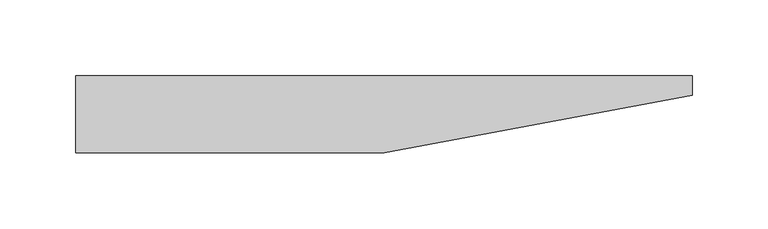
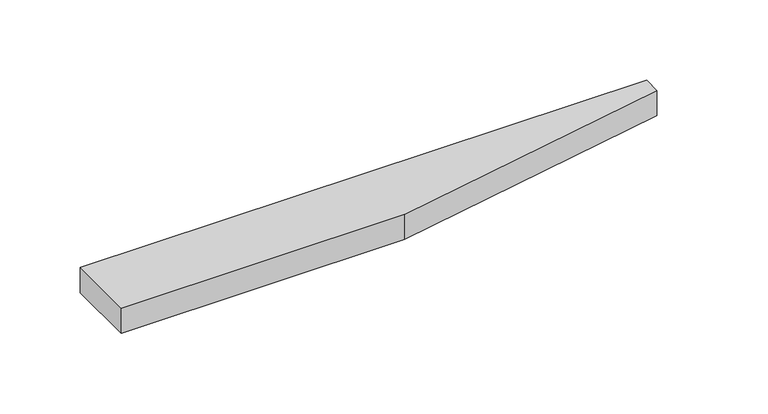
"""IFC4 building model written with IfcOpenShell, lengths in millimetres: proxy geometry, SS LIFT ANGLE_16_RT_OMT_LINAK."""

from ifc_helpers import new_model, si_unit, origin, origin_with_axes, place, context, project, spatial, polyline, outline, extrude, source, transform, mapped, element, save


def generic_models_c0b0dad1(model_context):
    return source(origin(), model_context, "Body", "SweptSolid", [
        extrude(outline(polyline([(0.0, -50.8), (0.0, 0.0), (406.4, 0.0), (406.4, -12.7), (203.2, -50.8), (0.0, -50.8)])), origin_with_axes(), (0.0, 0.0, 1.0), 19.05),
    ])


if __name__ == "__main__":
    model = new_model("IFC4")
    model_context = context("Model", 3, world=origin())
    ifc_project = project(units=[si_unit("LENGTHUNIT", "METRE", prefix="MILLI")], contexts=[model_context])
    site = spatial("IfcSite", under=ifc_project)
    building = spatial("IfcBuilding", under=site)
    placement = place(None, origin())
    generic_models_shape = generic_models_c0b0dad1(model_context)
    element("IfcBuildingElementProxy", 1, Name="SS LIFT ANGLE_16_RT_OMT_LINAK", ObjectType="SS LIFT ANGLE_16_RT_OMT_LINAK", at=placement, inside=building, context=model_context, shape_type="MappedRepresentation", body=[
        mapped(generic_models_shape, transform((0.0, 0.0, 0.0), x_axis=(1.0, 0.0, 0.0), y_axis=(0.0, 1.0, 0.0), z_axis=(0.0, 0.0, 1.0))),
    ])
    save(model, "model.ifc")
